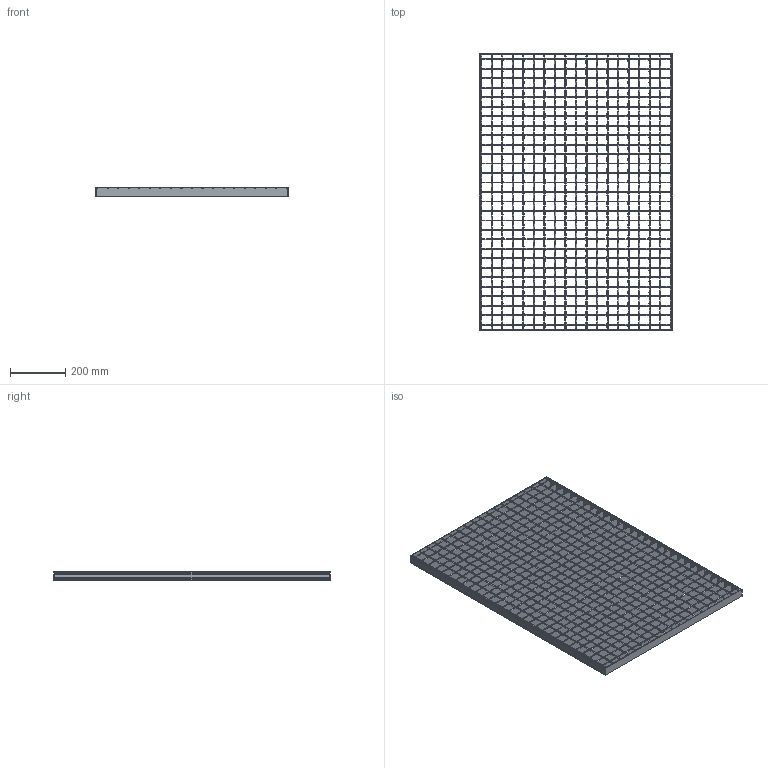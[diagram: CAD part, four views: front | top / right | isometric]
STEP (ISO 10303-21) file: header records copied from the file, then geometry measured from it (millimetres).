
FILE_DESCRIPTION(/* description */ ('STEP AP242','CAx-IF Rec.Pracs.---Representation and Presentation of Product Manufacturing Information (PMI)---4.0---2014-10-13','CAx-IF Rec.Pracs.---3D Tessellated Geometry---0.4---2014-09-14','2;1'),/* implementation_level */ '2;1');
FILE_NAME(/* name */ 'Lichtgitter_Forge_welded_gratings SP 330-34_38-3-1-1-700-1000_(350_1_0)',/* time_stamp */ '2026-04-23T13:49:27+02:00',/* author */ ('License CC BY-ND 4.0'),/* organization */ ('CADENAS'),/* preprocessor_version */ 'ST-DEVELOPER v20',/* originating_system */ 'PARTsolutions',/* authorisation */ ' ');
FILE_SCHEMA (('AP242_MANAGED_MODEL_BASED_3D_ENGINEERING_MIM_LF { 1 0 10303 442 1 1 4 }'));
Length unit declared in the file: millimetre
Products named in the file (5): Lichtgitter_Forge_welded_gratings SP 330-34/38-3-1-1-700-1000_(350_1_
0); Lichtgitter SP 330-34/38-3_(350_1_2_700_1000_Schweisspressroste)_VERT
ICAL_SIDES; Lichtgitter SP 330-34/38-3_(350_1_2_700_1000_Schweisspressroste)_HORI
ZONTAL_C; Lichtgitter SP 330-34/38-3_(350_1_2_700_1000_Schweisspressroste)_HORI
ZONTAL_SIDES; Lichtgitter SP 3.46530-34/38-3.465_(350_1_2_700_1000_Schweisspressros
te)_VERTICAL_C
Assembly tree (52 placements, depth 2):
  Lichtgitter_Forge_welded_gratings SP 330-34/38-3-1-1-700-1000_(350_1_
0)
    Lichtgitter SP 330-34/38-3_(350_1_2_700_1000_Schweisspressroste)_VERT
ICAL_SIDES  x2
    Lichtgitter SP 330-34/38-3_(350_1_2_700_1000_Schweisspressroste)_HORI
ZONTAL_C  x29
    Lichtgitter SP 330-34/38-3_(350_1_2_700_1000_Schweisspressroste)_HORI
ZONTAL_SIDES  x2
    Lichtgitter SP 3.46530-34/38-3.465_(350_1_2_700_1000_Schweisspressros
te)_VERTICAL_C  x19
Bounding box: 700 x 1000 x 30.72 mm (x, y, z)
Volume: 2288398 mm3; surface area: 1806507.6 mm2
Topology: 52 solids, 52 shells, 5162 faces, 11450 edges, 6392 vertices
Faces by surface type: bspline 3800, plane 795, cylinder 567
Entity records: 8327 total; most frequent: CARTESIAN_POINT 2653, ORIENTED_EDGE 1180, DIRECTION 886, EDGE_CURVE 590, LINE 532, VECTOR 532, VERTEX_POINT 328, EDGE_LOOP 270
